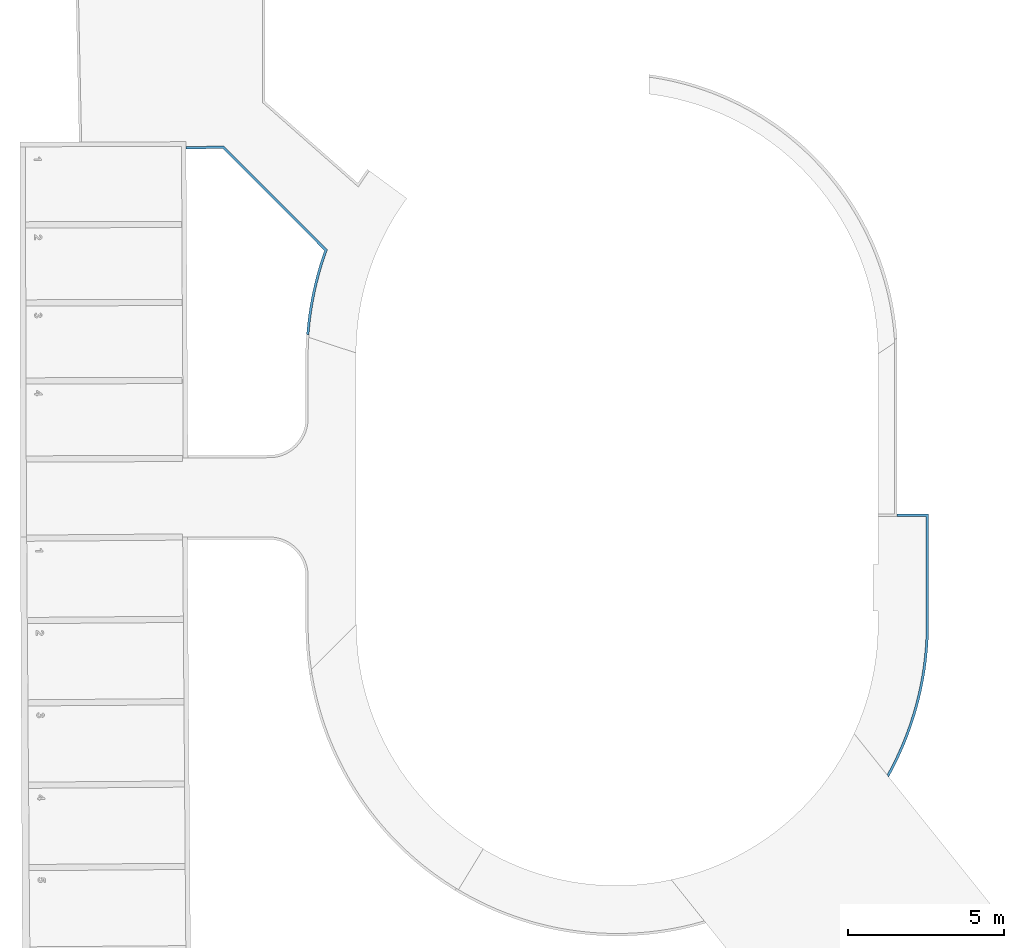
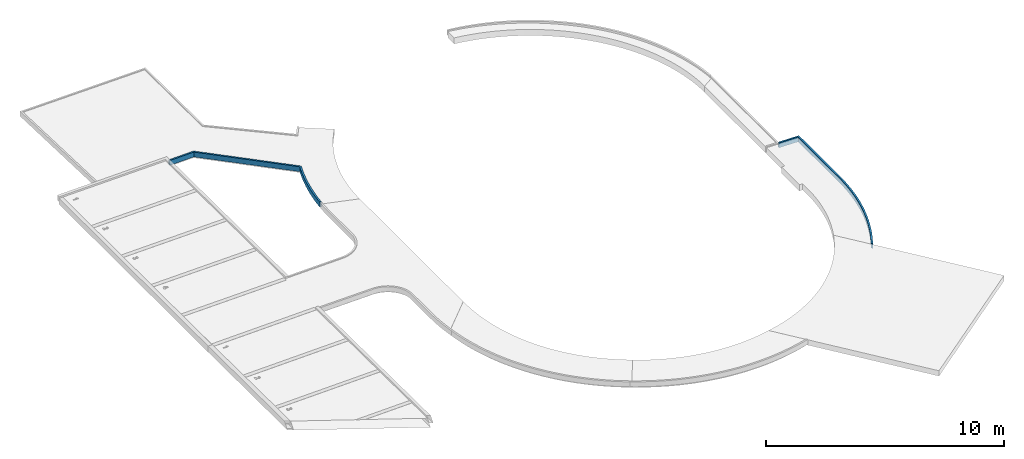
# One storey, part 7 of 8: 2 slabs.
"""IFC4 building model written with IfcOpenShell, lengths in millimetres."""

from ifc_helpers import new_model, entity, si_unit, converted_unit, derived_unit, direction, frame, origin_with_axes, place, context, subcontext, project, spatial, polygons, material, type_object, element, save


model = new_model("IFC4")

# Units and contexts
model_context = context("Model", 3, precision=0.01, world=origin_with_axes(), true_north=direction((0.0, 1.0)))
body_context = subcontext(model_context, "Body", "Model", "MODEL_VIEW")
ifc_project = project(units=[si_unit("LENGTHUNIT", "METRE", prefix="MILLI"), si_unit("AREAUNIT", "SQUARE_METRE"), si_unit("VOLUMEUNIT", "CUBIC_METRE"), converted_unit("PLANEANGLEUNIT", "DEGREE", entity("IfcPlaneAngleMeasure", 0.0174532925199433), si_unit("PLANEANGLEUNIT", "RADIAN"), dimensions=[0, 0, 0, 0, 0, 0, 0]), converted_unit("TIMEUNIT", "Year", entity("IfcTimeMeasure", 31557600.0), si_unit("TIMEUNIT", "SECOND"), dimensions=[0, 0, 1, 0, 0, 0, 0]), si_unit("MASSUNIT", "GRAM", prefix="KILO"), si_unit("THERMODYNAMICTEMPERATUREUNIT", "DEGREE_CELSIUS"), si_unit("LUMINOUSINTENSITYUNIT", "LUMEN"), si_unit("ENERGYUNIT", "JOULE", prefix="MEGA"), derived_unit("THERMALCONDUCTANCEUNIT", [(si_unit("POWERUNIT", "WATT"), 1), (si_unit("LENGTHUNIT", "METRE"), -1), (si_unit("THERMODYNAMICTEMPERATUREUNIT", "KELVIN"), -1)]), derived_unit("SPECIFICHEATCAPACITYUNIT", [(si_unit("ENERGYUNIT", "JOULE"), 1), (si_unit("MASSUNIT", "GRAM", prefix="KILO"), -1), (si_unit("THERMODYNAMICTEMPERATUREUNIT", "KELVIN"), -1)]), derived_unit("MASSDENSITYUNIT", [(si_unit("MASSUNIT", "GRAM", prefix="KILO"), 1), (si_unit("VOLUMEUNIT", "CUBIC_METRE"), -1)])], contexts=[model_context])

# Site, building, storey
site_placement = place(None, origin_with_axes())
site = spatial("IfcSite", under=ifc_project, at=site_placement, Name="Exteriér", CompositionType="ELEMENT")
building_placement = place(site_placement, origin_with_axes())
building = spatial("IfcBuilding", under=site, at=building_placement, Name="Univerzitní lezecké centrum", CompositionType="ELEMENT")
storey_placement = place(building_placement, origin_with_axes())
storey = spatial("IfcBuildingStorey", under=building, at=storey_placement, Name="1.NP", CompositionType="ELEMENT", Elevation=0.0)

# Slabs
ifc_material = material(Name="Beton prostý")
slab_type = type_object("IfcSlabType", Name="Beton prostý  250", PredefinedType="ROOF")
slab_1_placement = place(storey_placement, frame((-5910.148351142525, 8400.000000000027, -147.8854346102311), z_axis=(0.0, 0.0, 1.0), x_axis=(0.3117806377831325, 0.9501541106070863, 0.0)))
element("IfcSlab", 1, at=slab_1_placement, inside=storey, type_object=slab_type, material=ifc_material, PredefinedType="ROOF", context=body_context, shape_type="Tessellation", body=[
    polygons([(80.56556099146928, 1617.174224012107, 217.7065105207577), (146.2985288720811, 1634.343587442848, 217.3631232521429), (459.5740309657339, 1703.771856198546, 215.974557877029), (774.866433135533, 1763.374925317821, 214.7824964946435), (1091.867667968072, 1813.094557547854, 213.7881038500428), (1410.267998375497, 1852.882172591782, 212.9923515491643), (1729.756320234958, 1882.698894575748, 212.3960171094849), (2050.020466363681, 1902.515590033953, 211.9996832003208), (2370.747511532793, 1912.312896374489, 211.8037370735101), (2691.62407822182, 1912.081240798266, 211.8083701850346), (2851.980360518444, 1906.951045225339, 211.9109740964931), (4976.404153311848, 6094.782325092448, 128.1543484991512), (4591.559728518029, 7244.667845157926, 105.1566380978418), (4515.695784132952, 7219.277651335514, 105.6644419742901), (4889.91863825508, 6101.12856690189, 128.0274236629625), (2803.600512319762, 1988.414174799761, 210.2817115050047), (2642.771148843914, 1992.766483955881, 210.1946653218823), (2320.997301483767, 1991.463349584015, 210.2207280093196), (1999.419629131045, 1980.153723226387, 210.4469205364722), (1678.349237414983, 1958.84854621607, 210.8730240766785), (1358.096741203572, 1927.568429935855, 211.4986264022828), (1038.971964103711, 1886.343635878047, 212.323122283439), (721.2836387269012, 1835.214046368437, 213.3457140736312), (405.3391080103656, 1774.229125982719, 214.5654124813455), (80.5943622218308, 1699.529639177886, 216.0594022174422), (80.56730905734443, 1617.174680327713, -32.34349360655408), (146.2985283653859, 1634.343587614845, -32.68687175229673), (459.5740306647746, 1703.771856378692, -34.07543712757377), (774.8664329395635, 1763.374925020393, -35.26749850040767), (1091.867667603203, 1813.094557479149, -36.26189114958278), (1410.267998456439, 1852.882172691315, -37.05764345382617), (1729.75631988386, 1882.69889476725, -37.65397789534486), (2050.020466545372, 1902.51559031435, -38.05031180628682), (2370.747511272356, 1912.312896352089, -38.24625792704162), (2691.624077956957, 1912.081240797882, -38.24162481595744), (2851.980360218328, 1906.95104535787, -38.13902090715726), (4976.404153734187, 6094.782325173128, -121.8956465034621), (4591.559728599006, 7244.667845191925, -144.8933569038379), (4515.695784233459, 7219.277651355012, -144.3855530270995), (4889.918638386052, 6101.128567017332, -122.0225713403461), (2803.600512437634, 1988.414175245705, -39.7682835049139), (2642.771149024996, 1992.766483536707, -39.85532967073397), (2320.997301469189, 1991.463349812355, -39.82926699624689), (1999.419629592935, 1980.153722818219, -39.60307445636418), (1678.349236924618, 1958.848546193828, -39.1769709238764), (1358.09674117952, 1927.568429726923, -38.55136859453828), (1038.971964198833, 1886.343636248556, -37.72687272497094), (721.2836388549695, 1835.21404637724, -36.70428092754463), (405.3391078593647, 1774.229125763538, -35.48458251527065), (80.59611112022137, 1699.530041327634, -33.99060082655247)], [[[1, 2, 3, 4, 5, 6, 7, 8, 9, 10, 11, 12, 13, 14, 15, 16, 17, 18, 19, 20, 21, 22, 23, 24, 25]], [[2, 1, 26, 27]], [[3, 2, 27, 28]], [[4, 3, 28, 29]], [[5, 4, 29, 30]], [[6, 5, 30, 31]], [[7, 6, 31, 32]], [[8, 7, 32, 33]], [[9, 8, 33, 34]], [[10, 9, 34, 35]], [[11, 10, 35, 36]], [[12, 11, 36, 37]], [[13, 12, 37, 38]], [[14, 13, 38, 39]], [[15, 14, 39, 40]], [[16, 15, 40, 41]], [[17, 16, 41, 42]], [[18, 17, 42, 43]], [[19, 18, 43, 44]], [[20, 19, 44, 45]], [[21, 20, 45, 46]], [[22, 21, 46, 47]], [[23, 22, 47, 48]], [[24, 23, 48, 49]], [[25, 24, 49, 50]], [[1, 25, 50, 26]], [[27, 26, 50, 49, 48, 47, 46, 45, 44, 43, 42, 41, 40, 39, 38, 37, 36, 35, 34, 33, 32, 31, 30, 29, 28]]], closed=True),
])
slab_2_placement = place(storey_placement, frame((10044.25505011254, -3794.957063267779, -203.5020728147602), z_axis=(0.0, 0.0, 1.0), x_axis=(0.1094076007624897, 0.9939969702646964, 0.0)))
element("IfcSlab", 2, at=slab_2_placement, inside=storey, type_object=slab_type, material=ifc_material, PredefinedType="ROOF", context=body_context, shape_type="Tessellation", body=[
    polygons([(7256.647027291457, -1601.27676979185, 218.0244596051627), (7145.136809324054, -600.9306792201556, 238.0313814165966), (7065.616975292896, -609.683295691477, 237.8563290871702), (7168.264348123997, -1530.52176225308, 219.4395597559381), (4056.358275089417, -1873.044111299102, 212.5891127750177), (3935.581109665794, -1890.497136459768, 212.2400522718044), (3619.994728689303, -1925.744171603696, 211.5351115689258), (3303.448916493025, -1950.960557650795, 211.0307838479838), (2986.262407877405, -1966.120903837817, 210.7275769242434), (2668.754582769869, -1971.209944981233, 210.625796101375), (2351.245144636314, -1966.222556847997, 210.7255438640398), (2034.053798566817, -1951.163761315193, 211.0267197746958), (1717.499929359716, -1926.048721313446, 211.5290205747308), (1401.902279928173, -1890.902725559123, 212.2319404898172), (1087.578630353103, -1845.761163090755, 213.1347717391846), (774.8454779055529, -1790.66948763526, 214.2366052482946), (464.0177183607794, -1725.683171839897, 215.5363315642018), (155.4083289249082, -1650.86765141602, 217.0326419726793), (-150.6719469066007, -1566.298259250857, 218.7240298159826), (-453.9149122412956, -1472.060149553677, 220.6087920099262), (-754.015227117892, -1368.248212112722, 222.6850307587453), (-1050.670715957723, -1254.966976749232, 224.9506554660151), (-1197.126693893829, -1193.64874240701, 226.1770201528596), (-1258.336896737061, -1254.691862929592, 224.9561577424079), (-1111.653239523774, -1316.668313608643, 223.7166287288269), (-814.5191292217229, -1431.298254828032, 221.4240299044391), (-513.9144127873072, -1536.490970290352, 219.3201755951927), (-210.1387395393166, -1632.141601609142, 217.4071629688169), (96.50508032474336, -1718.154802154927, 215.6868989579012), (405.7113775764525, -1794.444832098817, 214.1610983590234), (717.1719286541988, -1860.935643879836, 212.831282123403), (1030.576262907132, -1917.56095801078, 211.6987758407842), (1345.61197207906, -1964.264329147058, 210.7647084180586), (1661.965021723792, -2000.999202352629, 210.0300109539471), (1979.320064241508, -2027.728959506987, 209.49541581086), (2297.360753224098, -2044.426955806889, 209.1614558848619), (2615.770058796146, -2051.076546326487, 209.02846407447), (2934.230583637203, -2047.671102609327, 209.0965729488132), (3252.424879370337, -2034.214019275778, 209.3657146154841), (3570.035763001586, -2010.718710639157, 209.8356207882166), (3886.746633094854, -1977.208597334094, 210.5058230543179), (4066.287923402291, -1952.43431404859, 211.0013087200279), (7256.647027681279, -1601.276770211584, -32.0255354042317), (7145.136809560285, -600.9306788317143, -12.0186135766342), (7065.616975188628, -609.6832954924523, -12.19366590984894), (7168.264347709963, -1530.521762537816, -30.6104352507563), (4056.358274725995, -1873.044111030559, -37.46088222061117), (3935.58111015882, -1890.497136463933, -37.80994272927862), (3619.994728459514, -1925.744171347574, -38.51488342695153), (3303.448916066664, -1950.96055740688, -39.01921114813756), (2986.26240773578, -1966.120903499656, -39.32241806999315), (2668.754582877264, -1971.209944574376, -39.42419889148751), (2351.245144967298, -1966.222556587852, -39.32445113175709), (2034.05379840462, -1951.16376115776, -39.02327522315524), (1717.499929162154, -1926.048720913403, -38.52097441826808), (1401.90227942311, -1890.902725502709, -37.81805451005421), (1087.578630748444, -1845.761162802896, -36.91522325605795), (774.8454776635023, -1790.669488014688, -35.81338976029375), (464.017718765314, -1725.683171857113, -34.51366343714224), (155.4083289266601, -1650.867651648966, -33.01735303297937), (-150.6719471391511, -1566.298259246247, -31.32596518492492), (-453.9149119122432, -1472.060149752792, -29.44120299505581), (-754.0152269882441, -1368.248211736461, -27.36496423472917), (-1050.670716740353, -1254.966976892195, -25.09933953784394), (-1197.126693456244, -1193.648742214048, -23.87297484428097), (-1258.336896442, -1254.691862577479, -25.09383725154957), (-1111.653240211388, -1316.668313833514, -26.33336627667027), (-814.5191290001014, -1431.298254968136, -28.62596509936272), (-513.91441324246, -1536.490970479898, -30.72981940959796), (-210.138739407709, -1632.141601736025, -32.64283203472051), (96.50507995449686, -1718.154802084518, -34.36309604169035), (405.711377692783, -1794.444831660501, -35.88889663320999), (717.1719284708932, -1860.935643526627, -37.21871287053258), (1030.576263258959, -1917.560957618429, -38.35121915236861), (1345.611972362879, -1964.264329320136, -39.28528658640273), (1661.965021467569, -2000.999202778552, -40.01998405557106), (1979.320063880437, -2027.728959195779, -40.55457918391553), (2297.360753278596, -2044.426955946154, -40.88853911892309), (2615.770058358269, -2051.076546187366, -41.02153092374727), (2934.230583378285, -2047.671103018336, -40.95342206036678), (3252.42487959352, -2034.214019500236, -40.68428039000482), (3570.035762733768, -2010.718710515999, -40.21437421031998), (3886.746633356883, -1977.20859694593, -39.54417193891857), (4066.287923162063, -1952.434314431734, -39.04868628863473)], [[[1, 2, 3, 4, 5, 6, 7, 8, 9, 10, 11, 12, 13, 14, 15, 16, 17, 18, 19, 20, 21, 22, 23, 24, 25, 26, 27, 28, 29, 30, 31, 32, 33, 34, 35, 36, 37, 38, 39, 40, 41, 42]], [[2, 1, 43, 44]], [[3, 2, 44, 45]], [[4, 3, 45, 46]], [[5, 4, 46, 47]], [[6, 5, 47, 48]], [[7, 6, 48, 49]], [[8, 7, 49, 50]], [[9, 8, 50, 51]], [[10, 9, 51, 52]], [[11, 10, 52, 53]], [[12, 11, 53, 54]], [[13, 12, 54, 55]], [[14, 13, 55, 56]], [[15, 14, 56, 57]], [[16, 15, 57, 58]], [[17, 16, 58, 59]], [[18, 17, 59, 60]], [[19, 18, 60, 61]], [[20, 19, 61, 62]], [[21, 20, 62, 63]], [[22, 21, 63, 64]], [[23, 22, 64, 65]], [[24, 23, 65, 66]], [[25, 24, 66, 67]], [[26, 25, 67, 68]], [[27, 26, 68, 69]], [[28, 27, 69, 70]], [[29, 28, 70, 71]], [[30, 29, 71, 72]], [[31, 30, 72, 73]], [[32, 31, 73, 74]], [[33, 32, 74, 75]], [[34, 33, 75, 76]], [[35, 34, 76, 77]], [[36, 35, 77, 78]], [[37, 36, 78, 79]], [[38, 37, 79, 80]], [[39, 38, 80, 81]], [[40, 39, 81, 82]], [[41, 40, 82, 83]], [[42, 41, 83, 84]], [[1, 42, 84, 43]], [[44, 43, 84, 83, 82, 81, 80, 79, 78, 77, 76, 75, 74, 73, 72, 71, 70, 69, 68, 67, 66, 65, 64, 63, 62, 61, 60, 59, 58, 57, 56, 55, 54, 53, 52, 51, 50, 49, 48, 47, 46, 45]]], closed=True),
])

save(model, "model.ifc")
